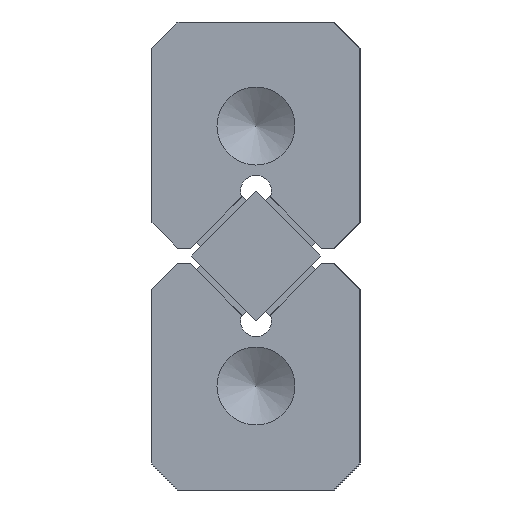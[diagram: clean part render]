
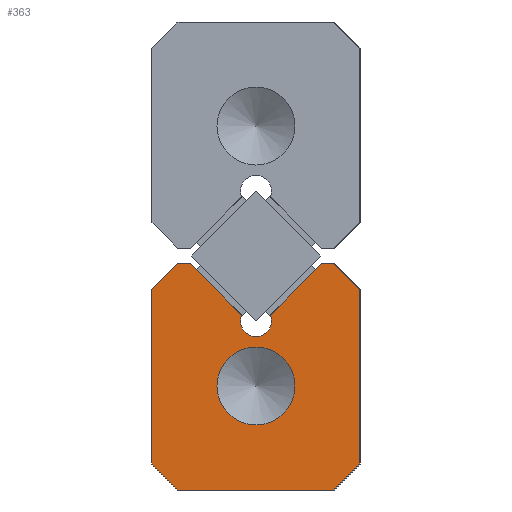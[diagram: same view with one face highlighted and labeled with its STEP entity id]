
A CAD part, left-side view. The second image highlights one B-rep face of the part: STEP entity #363.
In plain terms, the highlighted planar face has unit normal (-1, 0, 0).
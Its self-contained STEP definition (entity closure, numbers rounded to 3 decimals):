
#98=CARTESIAN_POINT('',(0.0,-3.,5.2));
#99=VERTEX_POINT('',#98);
#106=CARTESIAN_POINT('',(0.0,-4.0,4.2));
#107=VERTEX_POINT('',#106);
#108=CARTESIAN_POINT('',(0.0,-3.,5.2));
#109=DIRECTION('',(0.0,-0.707,-0.707));
#110=VECTOR('',#109,1.414);
#111=LINE('',#108,#110);
#112=EDGE_CURVE('',#99,#107,#111,.T.);
#129=CARTESIAN_POINT('',(0.0,-4.0,-2.5));
#130=VERTEX_POINT('',#129);
#131=CARTESIAN_POINT('',(0.0,-4.0,4.2));
#132=DIRECTION('',(0.0,0.0,-1.0));
#133=VECTOR('',#132,6.7);
#134=LINE('',#131,#133);
#135=EDGE_CURVE('',#107,#130,#134,.T.);
#264=CARTESIAN_POINT('',(0.0,0.,0.885));
#265=DIRECTION('',(1.0,0.0,0.0));
#266=DIRECTION('',(0.0,0.0,-1.0));
#267=AXIS2_PLACEMENT_3D('',#264,#265,#266);
#268=PLANE('',#267);
#269=ORIENTED_EDGE('',*,*,#112,.F.);
#270=CARTESIAN_POINT('',(0.0,-2.528,5.2));
#271=VERTEX_POINT('',#270);
#272=CARTESIAN_POINT('',(0.0,-2.528,5.2));
#273=DIRECTION('',(0.0,-1.0,0.0));
#274=VECTOR('',#273,0.472);
#275=LINE('',#272,#274);
#276=EDGE_CURVE('',#271,#99,#275,.T.);
#277=ORIENTED_EDGE('',*,*,#276,.F.);
#278=CARTESIAN_POINT('',(0.0,-0.555,3.227));
#279=VERTEX_POINT('',#278);
#280=CARTESIAN_POINT('',(0.0,-0.555,3.227));
#281=DIRECTION('',(0.0,-0.707,0.707));
#282=VECTOR('',#281,2.79);
#283=LINE('',#280,#282);
#284=EDGE_CURVE('',#279,#271,#283,.T.);
#285=ORIENTED_EDGE('',*,*,#284,.F.);
#286=CARTESIAN_POINT('',(0.0,0.555,3.227));
#287=VERTEX_POINT('',#286);
#288=CARTESIAN_POINT('',(0.0,0.0,3.));
#289=DIRECTION('',(-1.,0.0,0.0));
#290=DIRECTION('',(0.0,0.926,-0.378));
#291=AXIS2_PLACEMENT_3D('',#288,#289,#290);
#292=CIRCLE('',#291,0.6);
#293=EDGE_CURVE('',#287,#279,#292,.T.);
#294=ORIENTED_EDGE('',*,*,#293,.F.);
#295=CARTESIAN_POINT('',(0.0,2.528,5.2));
#296=VERTEX_POINT('',#295);
#297=CARTESIAN_POINT('',(0.0,2.528,5.2));
#298=DIRECTION('',(0.0,-0.707,-0.707));
#299=VECTOR('',#298,2.79);
#300=LINE('',#297,#299);
#301=EDGE_CURVE('',#296,#287,#300,.T.);
#302=ORIENTED_EDGE('',*,*,#301,.F.);
#303=CARTESIAN_POINT('',(0.0,3.,5.2));
#304=VERTEX_POINT('',#303);
#305=CARTESIAN_POINT('',(0.0,3.,5.2));
#306=DIRECTION('',(0.0,-1.0,0.0));
#307=VECTOR('',#306,0.472);
#308=LINE('',#305,#307);
#309=EDGE_CURVE('',#304,#296,#308,.T.);
#310=ORIENTED_EDGE('',*,*,#309,.F.);
#311=CARTESIAN_POINT('',(0.0,4.0,4.2));
#312=VERTEX_POINT('',#311);
#313=CARTESIAN_POINT('',(0.0,4.0,4.2));
#314=DIRECTION('',(0.0,-0.707,0.707));
#315=VECTOR('',#314,1.414);
#316=LINE('',#313,#315);
#317=EDGE_CURVE('',#312,#304,#316,.T.);
#318=ORIENTED_EDGE('',*,*,#317,.F.);
#319=CARTESIAN_POINT('',(0.0,4.0,-2.5));
#320=VERTEX_POINT('',#319);
#321=CARTESIAN_POINT('',(0.0,4.0,-2.5));
#322=DIRECTION('',(0.0,0.0,1.0));
#323=VECTOR('',#322,6.7);
#324=LINE('',#321,#323);
#325=EDGE_CURVE('',#320,#312,#324,.T.);
#326=ORIENTED_EDGE('',*,*,#325,.F.);
#327=CARTESIAN_POINT('',(0.0,3.,-3.5));
#328=VERTEX_POINT('',#327);
#329=CARTESIAN_POINT('',(0.0,3.,-3.5));
#330=DIRECTION('',(0.0,0.707,0.707));
#331=VECTOR('',#330,1.414);
#332=LINE('',#329,#331);
#333=EDGE_CURVE('',#328,#320,#332,.T.);
#334=ORIENTED_EDGE('',*,*,#333,.F.);
#335=CARTESIAN_POINT('',(0.0,-3.,-3.5));
#336=VERTEX_POINT('',#335);
#337=CARTESIAN_POINT('',(0.0,-3.,-3.5));
#338=DIRECTION('',(0.0,1.0,0.0));
#339=VECTOR('',#338,6.);
#340=LINE('',#337,#339);
#341=EDGE_CURVE('',#336,#328,#340,.T.);
#342=ORIENTED_EDGE('',*,*,#341,.F.);
#343=CARTESIAN_POINT('',(0.0,-4.0,-2.5));
#344=DIRECTION('',(0.0,0.707,-0.707));
#345=VECTOR('',#344,1.414);
#346=LINE('',#343,#345);
#347=EDGE_CURVE('',#130,#336,#346,.T.);
#348=ORIENTED_EDGE('',*,*,#347,.F.);
#349=ORIENTED_EDGE('',*,*,#135,.F.);
#350=EDGE_LOOP('',(#269,#277,#285,#294,#302,#310,#318,#326,#334,#342,#348,#349));
#351=FACE_OUTER_BOUND('',#350,.T.);
#352=CARTESIAN_POINT('',(0.0,1.5,0.5));
#353=VERTEX_POINT('',#352);
#354=CARTESIAN_POINT('',(0.0,0.0,0.5));
#355=DIRECTION('',(1.0,0.0,0.0));
#356=DIRECTION('',(0.0,1.0,0.0));
#357=AXIS2_PLACEMENT_3D('',#354,#355,#356);
#358=CIRCLE('',#357,1.5);
#359=EDGE_CURVE('',#353,#353,#358,.T.);
#360=ORIENTED_EDGE('',*,*,#359,.T.);
#361=EDGE_LOOP('',(#360));
#362=FACE_BOUND('',#361,.T.);
#363=ADVANCED_FACE('',(#351,#362),#268,.F.);
